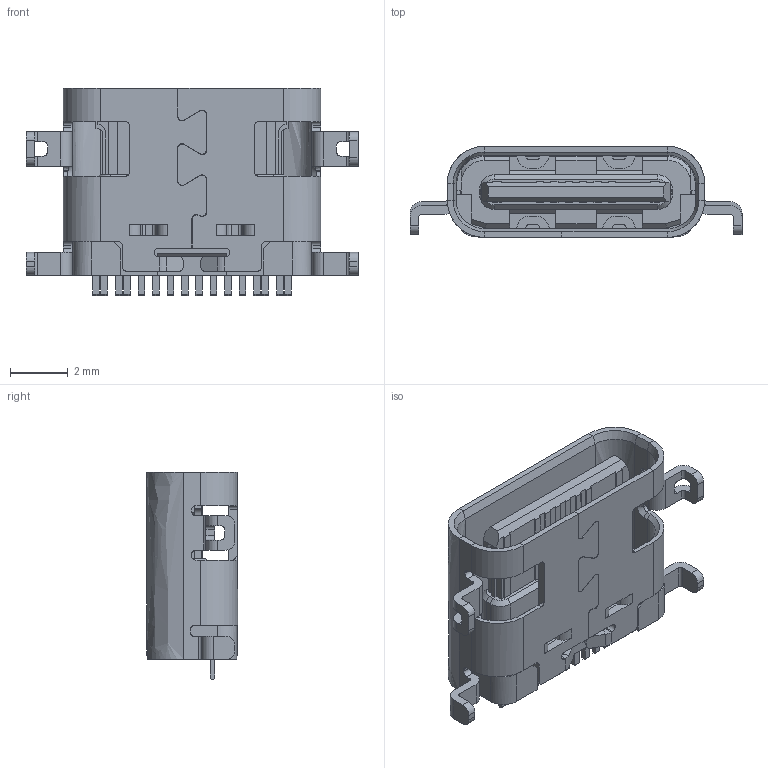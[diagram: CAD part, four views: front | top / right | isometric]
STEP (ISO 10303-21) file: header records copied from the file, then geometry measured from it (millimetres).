
FILE_DESCRIPTION (( 'STEP AP203' ), '1' );
FILE_NAME ('GT-USB-7014A01.STEP', '2023-04-19T07:19:14', ( '' ), ( '' ), 'SwSTEP 2.0', 'SolidWorks 2023', '' );
FILE_SCHEMA (( 'CONFIG_CONTROL_DESIGN' ));
Length unit declared in the file: millimetre
Products named in the file (1): GT-USB-7014A01
Bounding box: 11.54 x 3.17 x 7.2 mm (x, y, z)
Volume: 96.2 mm3; surface area: 441.4 mm2
Topology: 18 solids, 18 shells, 971 faces, 2709 edges, 1767 vertices
Faces by surface type: bspline 769, plane 202
Entity records: 35104 total; most frequent: CARTESIAN_POINT 12588, ORIENTED_EDGE 5418, DIRECTION 3301, EDGE_CURVE 2709, LINE 2177, VECTOR 2177, VERTEX_POINT 1767, EDGE_LOOP 1004
